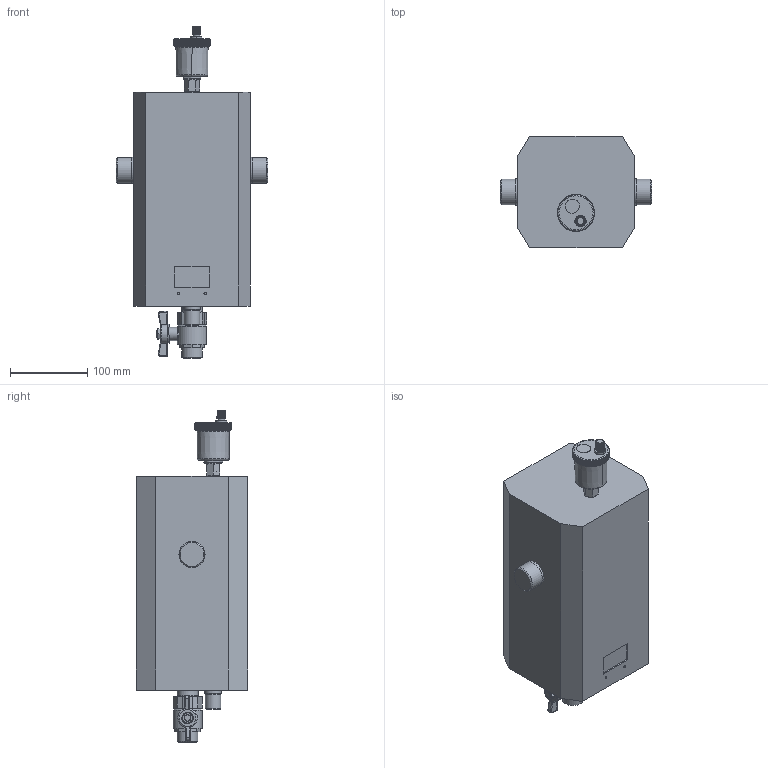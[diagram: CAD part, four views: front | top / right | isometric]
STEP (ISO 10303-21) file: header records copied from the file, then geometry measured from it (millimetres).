
FILE_DESCRIPTION(('FreeCAD Model'),'2;1');
FILE_NAME('Open CASCADE Shape Model','2023-05-04T15:48:05',(''),(''), 'Open CASCADE STEP processor 7.6','FreeCAD','Unknown');
FILE_SCHEMA(('AUTOMOTIVE_DESIGN { 1 0 10303 214 1 1 1 1 }'));
Products named in the file (1): BaseFeature(STEP_GESAMT)
Bounding box: 196 x 144 x 428.45 mm (x, y, z)
Volume: 5932286 mm3; surface area: 226040.6 mm2
Topology: 1 solids, 3 shells, 876 faces, 2478 edges, 1634 vertices
Faces by surface type: plane 389, cylinder 246, extrusion 147, cone 72, torus 18, sphere 4
Full cylindrical faces by diameter (mm): 3 x2, 8 x2, 9 x1, 15 x2, 16.7 x2, 17 x1, 17.5 x1, 18.25 x1, 20 x1, 21.3 x1, 22.3 x1, 25.9 x1, 26.441 x1, 26.9 x1, 33.24 x2, 33.7 x2, 37.5 x1
Entity records: 97016 total; most frequent: CARTESIAN_POINT 54165, DIRECTION 5766, ORIENTED_EDGE 4948, PCURVE 4948, DEFINITIONAL_REPRESENTATION 4948, B_SPLINE_CURVE_WITH_KNOTS 3810, VECTOR 3168, LINE 3021
